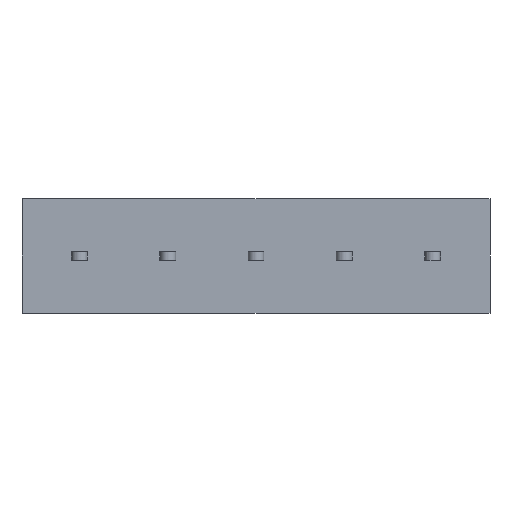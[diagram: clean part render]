
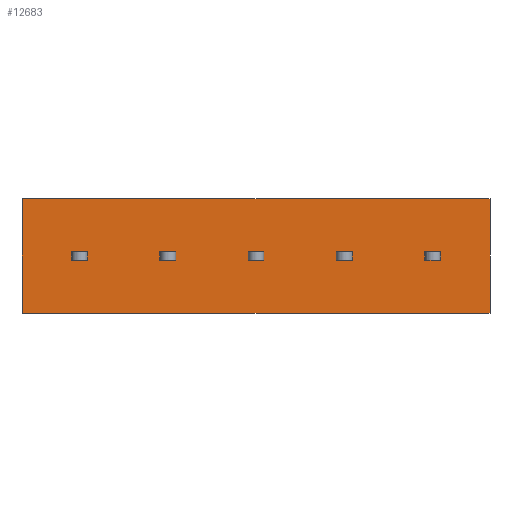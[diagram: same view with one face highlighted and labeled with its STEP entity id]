
A CAD part, front view. The second image highlights one B-rep face of the part: STEP entity #12683.
In plain terms, the highlighted planar face has unit normal (0, -1, 0).
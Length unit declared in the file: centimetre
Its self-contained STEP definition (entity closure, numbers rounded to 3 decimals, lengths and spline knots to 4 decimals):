
#657=VECTOR('',#13621,1.);
#660=VECTOR('',#13627,1.);
#669=VECTOR('',#13650,1.);
#672=VECTOR('',#13658,1.);
#1074=VECTOR('',#14202,1.);
#1163=VECTOR('',#14427,1.);
#1167=VECTOR('',#14432,1.);
#1178=VECTOR('',#14465,1.);
#1180=VECTOR('',#14468,1.);
#1281=VECTOR('',#14715,1.);
#1285=VECTOR('',#14720,1.);
#1296=VECTOR('',#14753,1.);
#1298=VECTOR('',#14756,1.);
#1399=VECTOR('',#15003,1.);
#1403=VECTOR('',#15008,1.);
#1414=VECTOR('',#15041,1.);
#1416=VECTOR('',#15044,1.);
#1517=VECTOR('',#15291,1.);
#1521=VECTOR('',#15296,1.);
#1532=VECTOR('',#15329,1.);
#1534=VECTOR('',#15332,1.);
#1583=VECTOR('',#15413,1.);
#1591=VECTOR('',#15422,1.);
#1592=VECTOR('',#15423,1.);
#2085=LINE('',#16267,#657);
#2088=LINE('',#16276,#660);
#2097=LINE('',#16299,#669);
#2100=LINE('',#16307,#672);
#2502=LINE('',#17811,#1074);
#2591=LINE('',#18121,#1163);
#2595=LINE('',#18130,#1167);
#2606=LINE('',#18165,#1178);
#2608=LINE('',#18169,#1180);
#2709=LINE('',#18503,#1281);
#2713=LINE('',#18512,#1285);
#2724=LINE('',#18547,#1296);
#2726=LINE('',#18551,#1298);
#2827=LINE('',#18885,#1399);
#2831=LINE('',#18894,#1403);
#2842=LINE('',#18929,#1414);
#2844=LINE('',#18933,#1416);
#2945=LINE('',#19267,#1517);
#2949=LINE('',#19276,#1521);
#2960=LINE('',#19311,#1532);
#2962=LINE('',#19315,#1534);
#3011=LINE('',#19416,#1583);
#3019=LINE('',#19433,#1591);
#3020=LINE('',#19434,#1592);
#3528=VERTEX_POINT('',#16268);
#3529=VERTEX_POINT('',#16269);
#3532=VERTEX_POINT('',#16277);
#3537=VERTEX_POINT('',#16300);
#3875=VERTEX_POINT('',#17809);
#3877=VERTEX_POINT('',#17812);
#3973=VERTEX_POINT('',#18122);
#3974=VERTEX_POINT('',#18123);
#3977=VERTEX_POINT('',#18131);
#3988=VERTEX_POINT('',#18166);
#4087=VERTEX_POINT('',#18504);
#4088=VERTEX_POINT('',#18505);
#4091=VERTEX_POINT('',#18513);
#4102=VERTEX_POINT('',#18548);
#4201=VERTEX_POINT('',#18886);
#4202=VERTEX_POINT('',#18887);
#4205=VERTEX_POINT('',#18895);
#4216=VERTEX_POINT('',#18930);
#4315=VERTEX_POINT('',#19268);
#4316=VERTEX_POINT('',#19269);
#4319=VERTEX_POINT('',#19277);
#4330=VERTEX_POINT('',#19312);
#4355=VERTEX_POINT('',#19417);
#4356=VERTEX_POINT('',#19418);
#5005=EDGE_CURVE('',#3528,#3529,#2085,.T.);
#5009=EDGE_CURVE('',#3529,#3532,#2088,.T.);
#5021=EDGE_CURVE('',#3532,#3537,#2097,.T.);
#5025=EDGE_CURVE('',#3537,#3528,#2100,.T.);
#5533=EDGE_CURVE('',#3877,#3875,#2502,.T.);
#5668=EDGE_CURVE('',#3973,#3974,#2591,.T.);
#5672=EDGE_CURVE('',#3977,#3973,#2595,.T.);
#5689=EDGE_CURVE('',#3988,#3977,#2606,.T.);
#5691=EDGE_CURVE('',#3974,#3988,#2608,.T.);
#5838=EDGE_CURVE('',#4087,#4088,#2709,.T.);
#5842=EDGE_CURVE('',#4091,#4087,#2713,.T.);
#5859=EDGE_CURVE('',#4102,#4091,#2724,.T.);
#5861=EDGE_CURVE('',#4088,#4102,#2726,.T.);
#6008=EDGE_CURVE('',#4201,#4202,#2827,.T.);
#6012=EDGE_CURVE('',#4205,#4201,#2831,.T.);
#6029=EDGE_CURVE('',#4216,#4205,#2842,.T.);
#6031=EDGE_CURVE('',#4202,#4216,#2844,.T.);
#6178=EDGE_CURVE('',#4315,#4316,#2945,.T.);
#6182=EDGE_CURVE('',#4319,#4315,#2949,.T.);
#6199=EDGE_CURVE('',#4330,#4319,#2960,.T.);
#6201=EDGE_CURVE('',#4316,#4330,#2962,.T.);
#6252=EDGE_CURVE('',#4355,#4356,#3011,.T.);
#6260=EDGE_CURVE('',#4356,#3877,#3019,.T.);
#6261=EDGE_CURVE('',#4355,#3875,#3020,.T.);
#9448=ORIENTED_EDGE('',*,*,#5021,.F.);
#9449=ORIENTED_EDGE('',*,*,#5009,.F.);
#9450=ORIENTED_EDGE('',*,*,#5005,.F.);
#9451=ORIENTED_EDGE('',*,*,#5025,.F.);
#9452=ORIENTED_EDGE('',*,*,#5672,.T.);
#9453=ORIENTED_EDGE('',*,*,#5668,.T.);
#9454=ORIENTED_EDGE('',*,*,#5691,.T.);
#9455=ORIENTED_EDGE('',*,*,#5689,.T.);
#9456=ORIENTED_EDGE('',*,*,#5842,.T.);
#9457=ORIENTED_EDGE('',*,*,#5838,.T.);
#9458=ORIENTED_EDGE('',*,*,#5861,.T.);
#9459=ORIENTED_EDGE('',*,*,#5859,.T.);
#9460=ORIENTED_EDGE('',*,*,#6012,.T.);
#9461=ORIENTED_EDGE('',*,*,#6008,.T.);
#9462=ORIENTED_EDGE('',*,*,#6031,.T.);
#9463=ORIENTED_EDGE('',*,*,#6029,.T.);
#9464=ORIENTED_EDGE('',*,*,#6182,.T.);
#9465=ORIENTED_EDGE('',*,*,#6178,.T.);
#9466=ORIENTED_EDGE('',*,*,#6201,.T.);
#9467=ORIENTED_EDGE('',*,*,#6199,.T.);
#9468=ORIENTED_EDGE('',*,*,#6260,.T.);
#9469=ORIENTED_EDGE('',*,*,#5533,.T.);
#9470=ORIENTED_EDGE('',*,*,#6261,.F.);
#9471=ORIENTED_EDGE('',*,*,#6252,.T.);
#11159=EDGE_LOOP('',(#9448,#9449,#9450,#9451));
#11160=EDGE_LOOP('',(#9452,#9453,#9454,#9455));
#11161=EDGE_LOOP('',(#9456,#9457,#9458,#9459));
#11162=EDGE_LOOP('',(#9460,#9461,#9462,#9463));
#11163=EDGE_LOOP('',(#9464,#9465,#9466,#9467));
#11164=EDGE_LOOP('',(#9468,#9469,#9470,#9471));
#11951=FACE_BOUND('',#11159,.T.);
#11952=FACE_BOUND('',#11160,.T.);
#11953=FACE_BOUND('',#11161,.T.);
#11954=FACE_BOUND('',#11162,.T.);
#11955=FACE_BOUND('',#11163,.T.);
#11956=FACE_BOUND('',#11164,.T.);
#12683=ADVANCED_FACE('',(#11951,#11952,#11953,#11954,#11955,#11956),#13271,
 .T.);
#13271=PLANE('',#21669);
#13621=DIRECTION('',(-1.,0.,0.));
#13627=DIRECTION('',(0.,0.,-1.));
#13650=DIRECTION('',(1.,0.,0.));
#13658=DIRECTION('',(0.,0.,1.));
#14202=DIRECTION('',(0.,0.,1.));
#14427=DIRECTION('',(0.,0.,1.));
#14432=DIRECTION('',(-1.,0.,0.));
#14465=DIRECTION('',(0.,0.,-1.));
#14468=DIRECTION('',(1.,0.,0.));
#14715=DIRECTION('',(0.,0.,1.));
#14720=DIRECTION('',(-1.,0.,0.));
#14753=DIRECTION('',(0.,0.,-1.));
#14756=DIRECTION('',(1.,0.,0.));
#15003=DIRECTION('',(0.,0.,1.));
#15008=DIRECTION('',(-1.,0.,0.));
#15041=DIRECTION('',(0.,0.,-1.));
#15044=DIRECTION('',(1.,0.,0.));
#15291=DIRECTION('',(0.,0.,1.));
#15296=DIRECTION('',(-1.,0.,0.));
#15329=DIRECTION('',(0.,0.,-1.));
#15332=DIRECTION('',(1.,0.,0.));
#15413=DIRECTION('',(0.,0.,-1.));
#15421=DIRECTION('',(0.,-1.,0.));
#15422=DIRECTION('',(1.,0.,0.));
#15423=DIRECTION('',(1.,0.,0.));
#16267=CARTESIAN_POINT('',(-0.63,0.,0.05));
#16268=CARTESIAN_POINT('',(-0.33,0.,0.05));
#16269=CARTESIAN_POINT('',(-0.51,0.,0.05));
#16276=CARTESIAN_POINT('',(-0.51,0.,-0.175));
#16277=CARTESIAN_POINT('',(-0.51,0.,-0.05));
#16299=CARTESIAN_POINT('',(-0.63,0.,-0.05));
#16300=CARTESIAN_POINT('',(-0.33,0.,-0.05));
#16307=CARTESIAN_POINT('',(-0.33,0.,-0.175));
#17809=CARTESIAN_POINT('',(4.23,0.,0.65));
#17811=CARTESIAN_POINT('',(4.23,0.,0.65));
#17812=CARTESIAN_POINT('',(4.23,0.,-0.65));
#18121=CARTESIAN_POINT('',(3.49,0.,-0.175));
#18122=CARTESIAN_POINT('',(3.49,0.,-0.05));
#18123=CARTESIAN_POINT('',(3.49,0.,0.05));
#18130=CARTESIAN_POINT('',(1.79,0.,-0.05));
#18131=CARTESIAN_POINT('',(3.67,0.,-0.05));
#18165=CARTESIAN_POINT('',(3.67,0.,-0.175));
#18166=CARTESIAN_POINT('',(3.67,0.,0.05));
#18169=CARTESIAN_POINT('',(1.79,0.,0.05));
#18503=CARTESIAN_POINT('',(2.49,0.,-0.175));
#18504=CARTESIAN_POINT('',(2.49,0.,-0.05));
#18505=CARTESIAN_POINT('',(2.49,0.,0.05));
#18512=CARTESIAN_POINT('',(1.29,0.,-0.05));
#18513=CARTESIAN_POINT('',(2.67,0.,-0.05));
#18547=CARTESIAN_POINT('',(2.67,0.,-0.175));
#18548=CARTESIAN_POINT('',(2.67,0.,0.05));
#18551=CARTESIAN_POINT('',(1.29,0.,0.05));
#18885=CARTESIAN_POINT('',(1.49,0.,-0.175));
#18886=CARTESIAN_POINT('',(1.49,0.,-0.05));
#18887=CARTESIAN_POINT('',(1.49,0.,0.05));
#18894=CARTESIAN_POINT('',(0.79,0.,-0.05));
#18895=CARTESIAN_POINT('',(1.67,0.,-0.05));
#18929=CARTESIAN_POINT('',(1.67,0.,-0.175));
#18930=CARTESIAN_POINT('',(1.67,0.,0.05));
#18933=CARTESIAN_POINT('',(0.79,0.,0.05));
#19267=CARTESIAN_POINT('',(0.49,0.,-0.175));
#19268=CARTESIAN_POINT('',(0.49,0.,-0.05));
#19269=CARTESIAN_POINT('',(0.49,0.,0.05));
#19276=CARTESIAN_POINT('',(0.29,0.,-0.05));
#19277=CARTESIAN_POINT('',(0.67,0.,-0.05));
#19311=CARTESIAN_POINT('',(0.67,0.,-0.175));
#19312=CARTESIAN_POINT('',(0.67,0.,0.05));
#19315=CARTESIAN_POINT('',(0.29,0.,0.05));
#19416=CARTESIAN_POINT('',(-1.07,0.,0.65));
#19417=CARTESIAN_POINT('',(-1.07,0.,0.65));
#19418=CARTESIAN_POINT('',(-1.07,0.,-0.65));
#19432=CARTESIAN_POINT('',(-1.07,0.,0.));
#19433=CARTESIAN_POINT('',(-1.07,0.,-0.65));
#19434=CARTESIAN_POINT('',(-1.07,0.,0.65));
#21669=AXIS2_PLACEMENT_3D('',#19432,#15421,$);
